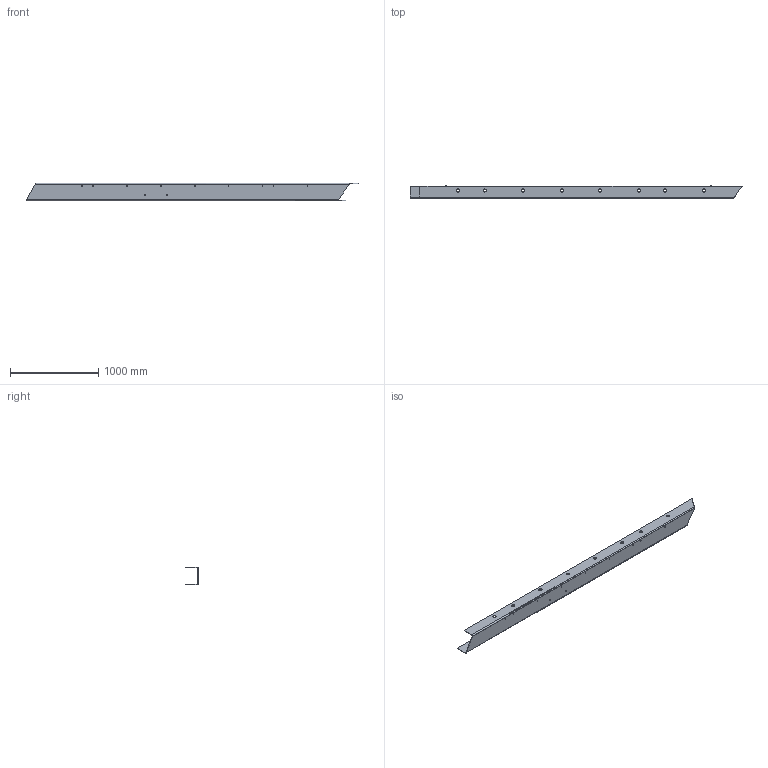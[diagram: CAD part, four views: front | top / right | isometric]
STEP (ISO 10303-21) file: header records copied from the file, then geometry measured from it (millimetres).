
FILE_DESCRIPTION(/* description */ (''),/* implementation_level */ '2;1');
FILE_NAME(/* name */ '7273540ugm000~00.stp',/* time_stamp */ '2023-05-08T10:02:26+02:00',/* author */ (''),/* organization */ (''),/* preprocessor_version */ 'ST-DEVELOPER v18.1',/* originating_system */ 'SIEMENS PLM Software NX 2000',/* authorisation */ '');
FILE_SCHEMA (('AUTOMOTIVE_DESIGN { 1 0 10303 214 0 1 1 1 }'));
Length unit declared in the file: millimetre
Products named in the file (1): 7273540ugm000~00
Bounding box: 3763.13 x 146 x 200 mm (x, y, z)
Volume: 9737946.3 mm3; surface area: 3309479.2 mm2
Topology: 1 solids, 1 shells, 251 faces, 732 edges, 483 vertices
Faces by surface type: cylinder 128, plane 111, bspline 12
Full cylindrical faces by diameter (mm): 35 x16
Entity records: 8686 total; most frequent: CARTESIAN_POINT 1816, ORIENTED_EDGE 1432, DIRECTION 1420, EDGE_CURVE 716, AXIS2_PLACEMENT_3D 489, VERTEX_POINT 483, LINE 442, VECTOR 442
